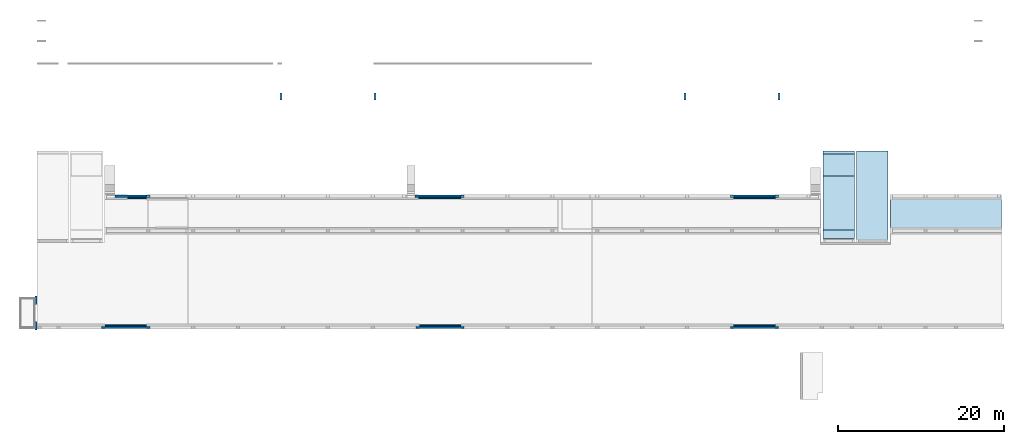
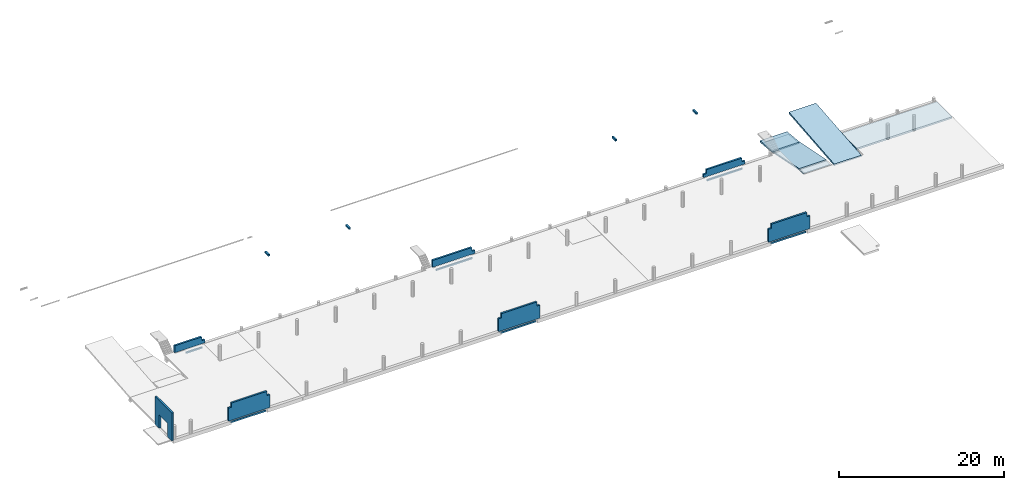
# One storey, part 4 of 6: 17 walls, 7 slabs, 13 openings.
"""IFC2X3 building model written with IfcOpenShell, lengths in millimetres."""

import ifcopenshell
import ifcopenshell.guid

model = None  # the IFC model being written
_history = None  # IfcOwnerHistory: only IFC2X3 demands one
_inside = {}  # id of a spatial element -> (the spatial element, [elements in it])
_under = {}  # id of a project, library or spatial element -> (it, [spatial elements below it])
_declared = {}  # id of a project -> (the project, [libraries it declares])
_typed = {}  # id of a type object -> (the type object, [elements of that type])
_made_of = {}  # id of a material, layer set ... -> (it, [elements and type objects made of it])


def new_model(schema):
    """Start an empty IFC model of exactly this schema.

    Asked for "IFC4X3", IfcOpenShell would pick the latest addendum, in which some entities
    have other attributes; the version numbers below select the first issue.
    IFC2X3 requires an IfcOwnerHistory on every rooted entity: one is made here for all.
    """
    global model, _history
    if schema == "IFC4X3":
        model = ifcopenshell.file(schema_version=(4, 3, 0, 0))
    else:
        model = ifcopenshell.file(schema=schema)
    _inside.clear()
    _under.clear()
    _declared.clear()
    _typed.clear()
    _made_of.clear()
    _history = None
    if model.schema == "IFC2X3":
        org = make("IfcOrganization", Name="unknown")
        user = make(
            "IfcPersonAndOrganization",
            ThePerson=make("IfcPerson", FamilyName="unknown"),
            TheOrganization=org,
        )
        app = make(
            "IfcApplication",
            ApplicationDeveloper=org,
            Version="unknown",
            ApplicationFullName="unknown",
            ApplicationIdentifier="unknown",
        )
        _history = make(
            "IfcOwnerHistory",
            OwningUser=user,
            OwningApplication=app,
            ChangeAction="ADDED",
            CreationDate=0,
        )
    return model


def make(cls, **values):
    """One entity of the class cls with the attributes given. An attribute that is None is left unset."""
    return model.create_entity(
        cls, **{name: value for name, value in values.items() if value is not None}
    )


def entity(cls, *values):
    """Any entity or typed value of the class cls, its attributes in the order of the schema. None: left unset."""
    e = model.create_entity(cls)
    for i, value in enumerate(values):
        if value is not None:
            e[i] = value
    return e


def rooted(cls, **values):
    """An entity with a GlobalId (a new one), such as an element, a storey or a relation."""
    return make(cls, GlobalId=ifcopenshell.guid.new(), OwnerHistory=_history, **values)


def si_unit(unit_type, name, prefix=None):
    """IfcSIUnit, for example si_unit("LENGTHUNIT", "METRE", prefix="MILLI")."""
    return make("IfcSIUnit", UnitType=unit_type, Prefix=prefix, Name=name)


def converted_unit(unit_type, name, factor, base, dimensions=None, offset=None):
    """IfcConversionBasedUnit, such as the inch: factor (a typed value) times the base unit."""
    return make(
        "IfcConversionBasedUnit"
        if offset is None
        else "IfcConversionBasedUnitWithOffset",
        ConversionOffset=offset,
        Dimensions=None
        if dimensions is None
        else entity("IfcDimensionalExponents", *dimensions),
        UnitType=unit_type,
        Name=name,
        ConversionFactor=make(
            "IfcMeasureWithUnit", ValueComponent=factor, UnitComponent=base
        ),
    )


def derived_unit(unit_type, elements):
    """IfcDerivedUnit: a product of units, each with its exponent."""
    return make(
        "IfcDerivedUnit",
        Elements=[
            make("IfcDerivedUnitElement", Unit=unit, Exponent=power)
            for unit, power in elements
        ],
        UnitType=unit_type,
    )


def assignment(units):
    """IfcUnitAssignment: the units of a project."""
    return None if units is None else make("IfcUnitAssignment", Units=units)


def point(xyz):
    """IfcCartesianPoint."""
    return None if xyz is None else make("IfcCartesianPoint", Coordinates=xyz)


def direction(xyz):
    """IfcDirection."""
    return None if xyz is None else make("IfcDirection", DirectionRatios=xyz)


def frame(location, z_axis=None, x_axis=None):
    """IfcAxis2Placement3D, a coordinate frame: its origin and axes. An axis left out is left unset."""
    return make(
        "IfcAxis2Placement3D",
        Location=point(location),
        Axis=direction(z_axis),
        RefDirection=direction(x_axis),
    )


def frame_2d(location, x_axis=None):
    """IfcAxis2Placement2D, a coordinate frame in the plane: its origin and x axis."""
    return make(
        "IfcAxis2Placement2D", Location=point(location), RefDirection=direction(x_axis)
    )


def origin():
    """The frame at (0, 0, 0) with its axes left unset."""
    return frame((0.0, 0.0, 0.0))


def origin_2d_with_axis():
    """The frame at (0, 0) in the plane with the x axis (1, 0) written out."""
    return frame_2d((0.0, 0.0), x_axis=(1.0, 0.0))


def place(relative_to, where):
    """IfcLocalPlacement: puts the frame where relative to a parent placement (None: the world)."""
    return make(
        "IfcLocalPlacement", PlacementRelTo=relative_to, RelativePlacement=where
    )


def context(
    kind, dimensions, precision=None, world=None, true_north=None, identifier=None
):
    """IfcGeometricRepresentationContext, for example the 3D "Model" context."""
    return make(
        "IfcGeometricRepresentationContext",
        ContextIdentifier=identifier,
        ContextType=kind,
        CoordinateSpaceDimension=dimensions,
        Precision=precision,
        WorldCoordinateSystem=world,
        TrueNorth=true_north,
    )


def subcontext(parent, identifier, kind, view, scale=None):
    """IfcGeometricRepresentationSubContext, for example "Body" below "Model"."""
    return make(
        "IfcGeometricRepresentationSubContext",
        ContextIdentifier=identifier,
        ContextType=kind,
        ParentContext=parent,
        TargetScale=scale,
        TargetView=view,
    )


def project(units=None, contexts=None):
    """IfcProject with its units and contexts."""
    return rooted(
        "IfcProject",
        Name="project",
        RepresentationContexts=contexts,
        UnitsInContext=assignment(units),
    )


def spatial(cls, under=None, at=None, **own):
    """A site, building, storey or space (cls), placed at a placement, below another one or the project."""
    s = rooted(cls, ObjectPlacement=at, **own)
    if under is not None:
        _under.setdefault(under.id(), (under, []))[1].append(s)
    return s


def profile(cls, at=None, kind="AREA", **sizes):
    """A parametric profile (cls). Its sizes go by their IFC names, for example OverallWidth=200.0."""
    return make(cls, ProfileType=kind, Position=at, **sizes)


def rectangle(**sizes):
    """IfcRectangleProfileDef."""
    return profile("IfcRectangleProfileDef", **sizes)


def extrude(swept, where, along, depth):
    """IfcExtrudedAreaSolid: the profile swept, set in the frame where, extruded along a direction by depth."""
    return make(
        "IfcExtrudedAreaSolid",
        SweptArea=swept,
        Position=where,
        ExtrudedDirection=direction(along),
        Depth=depth,
    )


def clip(a, b, op="DIFFERENCE"):
    """IfcBooleanClippingResult: the solid a cut by the half space b."""
    return make(
        "IfcBooleanClippingResult", Operator=op, FirstOperand=a, SecondOperand=b
    )


def halfspace(plane, agree):
    """IfcHalfSpaceSolid: all space on one side of the plane z = 0 of the frame plane."""
    return make(
        "IfcHalfSpaceSolid",
        BaseSurface=make("IfcPlane", Position=plane),
        AgreementFlag=agree,
    )


def faces_of(points, faces, orient=None, outer=None):
    """IfcFace entities. A face is a list of loops; a loop is a list of indices into points, from 0.

    orient and outer hold one flag for each loop. By default every Orientation is true, the
    first loop of a face is its IfcFaceOuterBound and the others are IfcFaceBound.
    """
    made = []
    for i, loops in enumerate(faces):
        bounds = []
        for j, loop in enumerate(loops):
            is_outer = j == 0 if outer is None else outer[i][j]
            bounds.append(
                make(
                    "IfcFaceOuterBound" if is_outer else "IfcFaceBound",
                    Bound=make("IfcPolyLoop", Polygon=[points[k] for k in loop]),
                    Orientation=True if orient is None else orient[i][j],
                )
            )
        made.append(make("IfcFace", Bounds=bounds))
    return made


def faceted_brep(points, faces, orient=None, outer=None, voids=None):
    """IfcFacetedBrep: a solid bounded by flat faces; with voids (closed shells), ...WithVoids."""
    shared = [point(p) for p in points]
    hull = make("IfcClosedShell", CfsFaces=faces_of(shared, faces, orient, outer))
    if voids is None:
        return make("IfcFacetedBrep", Outer=hull)
    return make(
        "IfcFacetedBrepWithVoids",
        Outer=hull,
        Voids=[
            make(cls, CfsFaces=faces_of(shared, fs, o, b)) for cls, fs, o, b in voids
        ],
    )


def shape(context_of_items, identifier, shape_type, items):
    """IfcShapeRepresentation: the items that make up one representation, for example the "Body"."""
    return make(
        "IfcShapeRepresentation",
        ContextOfItems=context_of_items,
        RepresentationIdentifier=identifier,
        RepresentationType=shape_type,
        Items=items,
    )


def material(Name=None, Category=None):
    """IfcMaterial."""
    return make("IfcMaterial", Name=Name, Category=Category)


def layer(
    of_material, thickness, ventilated=None, Name=None, Category=None, Priority=None
):
    """IfcMaterialLayer: one layer of a wall or slab, of a material (None: an air gap)."""
    return make(
        "IfcMaterialLayer",
        Material=of_material,
        LayerThickness=thickness,
        IsVentilated=ventilated,
        Name=Name,
        Category=Category,
        Priority=Priority,
    )


def layer_set(layers, Name=None):
    """IfcMaterialLayerSet."""
    return make("IfcMaterialLayerSet", MaterialLayers=layers, LayerSetName=Name)


def layer_usage(for_layer_set, set_direction, sense, offset, extent=None):
    """IfcMaterialLayerSetUsage: how a layer set lies in its element."""
    return make(
        "IfcMaterialLayerSetUsage",
        ForLayerSet=for_layer_set,
        LayerSetDirection=set_direction,
        DirectionSense=sense,
        OffsetFromReferenceLine=offset,
        ReferenceExtent=extent,
    )


def made_of(thing, what):
    """Note that an element or type object is made of a material, layer set ...; save() writes the relation."""
    if what is not None:
        _made_of.setdefault(what.id(), (what, []))[1].append(thing)
    return thing


def type_object(cls, material=None, **own):
    """A type object (cls), such as IfcWallType, which elements share."""
    return made_of(rooted(cls, **own), material)


def element(
    cls,
    number,
    at=None,
    inside=None,
    cuts=None,
    type_object=None,
    material=None,
    context=None,
    identifier="Body",
    shape_type=None,
    held_by="IfcProductDefinitionShape",
    body=None,
    shapes=None,
    **own,
):
    """One element of the class cls, such as IfcWall. Its Tag is "e" and its number.

    at: its placement. inside: the storey or other place that contains it. cuts: it is an
    opening in that element (IfcRelVoidsElement). A single representation is given by context,
    identifier, shape_type and body (its items); several are given by shapes. held_by: the class
    of the entity that holds the representations. save() writes the other relations.
    """
    e = rooted(cls, Tag="e%d" % number, ObjectPlacement=at, **own)
    if body is not None:
        shapes = [shape(context, identifier, shape_type, body)]
    if shapes is not None:
        e.Representation = make(held_by, Representations=shapes)
    if inside is not None:
        _inside.setdefault(inside.id(), (inside, []))[1].append(e)
    if cuts is not None:
        rooted(
            "IfcRelVoidsElement", RelatingBuildingElement=cuts, RelatedOpeningElement=e
        )
    if type_object is not None:
        _typed.setdefault(type_object.id(), (type_object, []))[1].append(e)
    return made_of(e, material)


def aggregate(whole, parts):
    """IfcRelAggregates: a whole, such as a stair, and the parts it consists of."""
    return rooted("IfcRelAggregates", RelatingObject=whole, RelatedObjects=parts)


def save(model, path):
    """Write the relations noted so far, then the file.

    IfcRelAggregates (storeys below a building ...), IfcRelContainedInSpatialStructure (elements
    in a storey), IfcRelDefinesByType, IfcRelAssociatesMaterial and IfcRelDeclares: one each for
    every whole, place, type object, material and project.
    """
    for whole, parts in _under.values():
        aggregate(whole, parts)
    for where, things in _inside.values():
        rooted(
            "IfcRelContainedInSpatialStructure",
            RelatedElements=things,
            RelatingStructure=where,
        )
    for kind, things in _typed.values():
        rooted("IfcRelDefinesByType", RelatedObjects=things, RelatingType=kind)
    for what, things in _made_of.values():
        rooted("IfcRelAssociatesMaterial", RelatedObjects=things, RelatingMaterial=what)
    for by, libraries in _declared.values():
        rooted("IfcRelDeclares", RelatingContext=by, RelatedDefinitions=libraries)
    model.write(path)


model = new_model("IFC2X3")

# Units and contexts
model_context = context("Model", 3, precision=0.01, world=origin(), true_north=direction((6.12303176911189e-17, 1.0)))
body_context = subcontext(model_context, "Body", "Model", "MODEL_VIEW")
ifc_project = project(units=[si_unit("LENGTHUNIT", "METRE", prefix="MILLI"), si_unit("AREAUNIT", "SQUARE_METRE"), si_unit("VOLUMEUNIT", "CUBIC_METRE"), converted_unit("PLANEANGLEUNIT", "DEGREE", entity("IfcRatioMeasure", 0.0174532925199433), si_unit("PLANEANGLEUNIT", "RADIAN"), dimensions=[0, 0, 0, 0, 0, 0, 0]), si_unit("MASSUNIT", "GRAM", prefix="KILO"), derived_unit("MASSDENSITYUNIT", [(si_unit("MASSUNIT", "GRAM", prefix="KILO"), 1), (si_unit("LENGTHUNIT", "METRE"), -3)]), si_unit("TIMEUNIT", "SECOND"), si_unit("FREQUENCYUNIT", "HERTZ"), si_unit("THERMODYNAMICTEMPERATUREUNIT", "DEGREE_CELSIUS"), derived_unit("THERMALTRANSMITTANCEUNIT", [(si_unit("MASSUNIT", "GRAM", prefix="KILO"), 1), (si_unit("THERMODYNAMICTEMPERATUREUNIT", "KELVIN"), -1), (si_unit("TIMEUNIT", "SECOND"), -3)]), derived_unit("VOLUMETRICFLOWRATEUNIT", [(si_unit("LENGTHUNIT", "METRE"), 3), (si_unit("TIMEUNIT", "SECOND"), -1)]), si_unit("ELECTRICCURRENTUNIT", "AMPERE"), si_unit("ELECTRICVOLTAGEUNIT", "VOLT"), si_unit("POWERUNIT", "WATT"), si_unit("FORCEUNIT", "NEWTON", prefix="KILO"), si_unit("ILLUMINANCEUNIT", "LUX"), si_unit("LUMINOUSFLUXUNIT", "LUMEN"), si_unit("LUMINOUSINTENSITYUNIT", "CANDELA"), derived_unit("USERDEFINED", [(si_unit("MASSUNIT", "GRAM", prefix="KILO"), -1), (si_unit("LENGTHUNIT", "METRE"), -2), (si_unit("TIMEUNIT", "SECOND"), 3), (si_unit("LUMINOUSFLUXUNIT", "LUMEN"), 1)]), derived_unit("LINEARVELOCITYUNIT", [(si_unit("LENGTHUNIT", "METRE"), 1), (si_unit("TIMEUNIT", "SECOND"), -1)]), si_unit("PRESSUREUNIT", "PASCAL"), derived_unit("USERDEFINED", [(si_unit("LENGTHUNIT", "METRE"), -2), (si_unit("MASSUNIT", "GRAM", prefix="KILO"), 1), (si_unit("TIMEUNIT", "SECOND"), -2)])], contexts=[model_context])

# Site, building, storey
site_placement = place(None, origin())
site = spatial("IfcSite", under=ifc_project, at=site_placement, Name="Default", CompositionType="ELEMENT")
building_placement = place(site_placement, origin())
building = spatial("IfcBuilding", under=site, at=building_placement, Name="niet gebruiken", CompositionType="ELEMENT")
storey_placement = place(building_placement, frame((0.0, 0.0, 8370.0)))
storey = spatial("IfcBuildingStorey", under=building, at=storey_placement, Name="02a eerste tussenverdieping", CompositionType="ELEMENT", Elevation=8369.99999999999)

# Slabs
ifc_material_1 = material(Name="NLRS_f2_beton prefab")
ifc_layer_1 = layer(ifc_material_1, 255.0)
ifc_layer_set_1 = layer_set([ifc_layer_1], Name="Floor:NLRS_23.21_FL_kanaalplaat d=255_gen")
ifc_layer_usage_1 = layer_usage(ifc_layer_set_1, "AXIS3", "POSITIVE", 0.0)
slab_1_placement = place(storey_placement, origin())
element("IfcSlab", 1, at=slab_1_placement, inside=storey, material=ifc_layer_usage_1, Name="Floor:NLRS_23.21_FL_kanaalplaat d=255_gen", ObjectType="Floor:NLRS_23.21_FL_kanaalplaat d=255_gen", PredefinedType="FLOOR", context=body_context, shape_type="SweptSolid", body=[
    extrude(rectangle(XDim=3689.99999999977, YDim=13355.0000000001, at=origin_2d_with_axis()), frame((117522.499999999, 22911.0, -70.0), z_axis=(0.0, 0.0, -1.0), x_axis=(0.0, 1.0, 0.0)), (0.0, 0.0, 1.0), 255.000000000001),
])
ifc_material_2 = material(Name="NLRS_f2_beton ihwg")
ifc_layer_2 = layer(ifc_material_2, 250.0)
ifc_layer_set_2 = layer_set([ifc_layer_2], Name="Floor:NLRS_23.21_FL_breedplaat d=70/250_opgeruwd_schil apart_gen")
ifc_layer_usage_2 = layer_usage(ifc_layer_set_2, "AXIS3", "POSITIVE", 0.0)
slab_2_placement = place(storey_placement, origin())
element("IfcSlab", 2, at=slab_2_placement, inside=storey, material=ifc_layer_usage_2, Name="Floor:NLRS_23.21_FL_breedplaat d=70/250_opgeruwd_schil apart_gen", ObjectType="Floor:NLRS_23.21_FL_breedplaat d=70/250_opgeruwd_schil apart_gen", PredefinedType="FLOOR", context=body_context, shape_type="Clipping", body=[
    clip(clip(extrude(rectangle(XDim=6630.69377968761, YDim=3800.0, at=frame_2d((2.27373675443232e-13, 0.0), x_axis=(1.0, 0.0))), frame((104625.0, 24176.0, -805.0), z_axis=(0.0, -0.197566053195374, -0.980289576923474), x_axis=(0.0, 0.980289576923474, -0.197566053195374)), (0.197566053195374, 0.0, 0.980289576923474), 187.31119526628), halfspace(frame((104625.0, 27426.0, -1643.61921236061), z_axis=(0.0, -0.197566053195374, -0.980289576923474), x_axis=(0.0, 0.980289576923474, -0.197566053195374)), False)), halfspace(frame((104625.0, 27426.0, -1460.0), z_axis=(0.0, 0.197566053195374, 0.980289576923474), x_axis=(0.0, 0.980289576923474, -0.197566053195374)), False)),
])

# Slab, opening
ifc_layer_usage_3 = layer_usage(ifc_layer_set_2, "AXIS3", "POSITIVE", 0.0)
slab_3_placement = place(storey_placement, frame((102725.0, 27426.0, -2011.24689052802)))
slab_3 = element("IfcSlab", 3, at=slab_3_placement, inside=storey, material=ifc_layer_usage_3, Name="Floor:NLRS_23.21_FL_breedplaat d=70/250_opgeruwd_schil apart_gen", ObjectType="Floor:NLRS_23.21_FL_breedplaat d=70/250_opgeruwd_schil apart_gen", PredefinedType="FLOOR", context=body_context, shape_type="SweptSolid", body=[
    extrude(rectangle(XDim=3014.96268633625, YDim=3799.99999999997, at=frame_2d((0.0, -1507.48134316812), x_axis=(0.0, -1.0))), frame((1900.0, 3000.0, 251.246890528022), z_axis=(0.0, 0.0995037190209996, 0.995037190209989), x_axis=(1.0, 0.0, 0.0)), (0.0, 0.0995037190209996, -0.995037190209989), 251.246890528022),
])
opening_1_placement = place(slab_3_placement, origin())
element("IfcOpeningElement", 4, at=opening_1_placement, cuts=slab_3, ObjectType="Opening", context=body_context, shape_type="SweptSolid", body=[
    extrude(rectangle(XDim=380.0, YDim=3759.99999999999, at=origin_2d_with_axis()), frame((1900.0, 2810.0, -213.753109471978), z_axis=(0.0, 0.0, 1.0), x_axis=(0.0, 1.0, 0.0)), (0.0, 0.0, 1.0), 250.000000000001),
])

# Slabs
ifc_layer_3 = layer(ifc_material_1, 70.0)
ifc_layer_set_3 = layer_set([ifc_layer_3], Name="Floor:NLRS_23.21_FL_breedplaatschil d=70_gen")
ifc_layer_usage_4 = layer_usage(ifc_layer_set_3, "AXIS3", "POSITIVE", 0.0)
slab_4_placement = place(storey_placement, origin())
element("IfcSlab", 5, at=slab_4_placement, inside=storey, material=ifc_layer_usage_4, Name="Floor:NLRS_23.21_FL_breedplaatschil d=70_gen", ObjectType="Floor:NLRS_23.21_FL_breedplaatschil d=70_gen", PredefinedType="FLOOR", context=body_context, shape_type="Clipping", body=[
    clip(clip(extrude(rectangle(XDim=1045.18706459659, YDim=3799.99999999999, at=frame_2d((0.0, -8.64019966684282e-12), x_axis=(1.0, 0.0))), frame((104625.0, 20406.0, -278.955823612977), z_axis=(0.0, -0.0995037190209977, -0.995037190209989), x_axis=(0.0, 0.995037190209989, -0.0995037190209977)), (0.0995037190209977, 0.0, 0.995037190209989), 70.7000000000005), halfspace(frame((104625.0, 20926.0, -330.955823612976), z_axis=(0.0, 0.0995037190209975, 0.995037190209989), x_axis=(0.0, 0.995037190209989, -0.0995037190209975)), False)), halfspace(frame((104625.0, 20926.0, -401.304952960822), z_axis=(0.0, -0.0995037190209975, -0.995037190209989), x_axis=(0.0, -0.995037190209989, 0.0995037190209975)), False)),
])
ifc_layer_usage_5 = layer_usage(ifc_layer_set_3, "AXIS3", "POSITIVE", 0.0)
slab_5_placement = place(storey_placement, origin())
element("IfcSlab", 6, at=slab_5_placement, inside=storey, material=ifc_layer_usage_5, Name="Floor:NLRS_23.21_FL_breedplaatschil d=70_gen", ObjectType="Floor:NLRS_23.21_FL_breedplaatschil d=70_gen", PredefinedType="FLOOR", context=body_context, shape_type="Clipping", body=[
    clip(clip(extrude(rectangle(XDim=6630.69377968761, YDim=3760.00000000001, at=origin_2d_with_axis()), frame((104625.0, 24176.0, -988.61921236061), z_axis=(0.0, -0.197566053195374, -0.980289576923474), x_axis=(0.0, 0.980289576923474, -0.197566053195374)), (0.197566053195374, 0.0, 0.980289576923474), 72.8432426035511), halfspace(frame((104625.0, 27426.0, -1715.02668383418), z_axis=(0.0, -0.197566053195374, -0.980289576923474), x_axis=(0.0, -0.980289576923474, 0.197566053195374)), False)), halfspace(frame((104625.0, 27426.0, -1643.61921236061), z_axis=(0.0, 0.197566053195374, 0.980289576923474), x_axis=(0.0, 0.980289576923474, -0.197566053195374)), False)),
])
ifc_layer_usage_6 = layer_usage(ifc_layer_set_3, "AXIS3", "POSITIVE", 0.0)
slab_6_placement = place(storey_placement, origin())
element("IfcSlab", 7, at=slab_6_placement, inside=storey, material=ifc_layer_usage_6, Name="Floor:NLRS_23.21_FL_breedplaatschil d=70_gen", ObjectType="Floor:NLRS_23.21_FL_breedplaatschil d=70_gen", PredefinedType="FLOOR", context=body_context, shape_type="Clipping", body=[
    clip(clip(extrude(rectangle(XDim=2653.1671639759, YDim=3759.99999999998, at=origin_2d_with_axis()), frame((104625.0, 28746.0, -1772.89776118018), z_axis=(0.0, -0.0995037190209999, -0.995037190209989), x_axis=(0.0, 0.995037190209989, -0.0995037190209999)), (0.0995037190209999, 0.0, 0.995037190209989), 70.7000000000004), halfspace(frame((104625.0, 30426.0, -2011.24689052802), z_axis=(0.0, -0.0995037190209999, -0.995037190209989), x_axis=(0.0, -0.995037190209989, 0.0995037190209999)), False)), halfspace(frame((104625.0, 30426.0, -1940.89776118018), z_axis=(0.0, 0.0995037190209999, 0.995037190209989), x_axis=(0.0, 0.995037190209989, -0.0995037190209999)), False)),
])

# Slab, opening
ifc_layer_usage_7 = layer_usage(ifc_layer_set_2, "AXIS3", "POSITIVE", 0.0)
slab_7_placement = place(storey_placement, frame((106775.0, 19426.0, -251.06203611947)))
slab_7 = element("IfcSlab", 8, at=slab_7_placement, inside=storey, material=ifc_layer_usage_7, Name="Floor:NLRS_23.21_FL_breedplaat d=70/250_opgeruwd_schil apart_gen", ObjectType="Floor:NLRS_23.21_FL_breedplaat d=70/250_opgeruwd_schil apart_gen", PredefinedType="FLOOR", context=body_context, shape_type="SweptSolid", body=[
    extrude(rectangle(XDim=11049.0542581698, YDim=3799.99999999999, at=frame_2d((0.0, 5525.08843574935), x_axis=(0.0, -1.0))), frame((1900.0, -0.558814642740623, 251.062036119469), z_axis=(0.0, -0.094125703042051, 0.995560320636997), x_axis=(1.0, 0.0, 0.0)), (0.0, -0.094125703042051, -0.995560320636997), 251.11486950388),
])
opening_2_placement = place(slab_7_placement, origin())
element("IfcOpeningElement", 9, at=opening_2_placement, cuts=slab_7, ObjectType="Opening", context=body_context, shape_type="SweptSolid", body=[
    extrude(rectangle(XDim=380.0, YDim=3759.99999999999, at=origin_2d_with_axis()), frame((1900.0, 190.0, -213.937963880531), z_axis=(0.0, 0.0, 1.0), x_axis=(0.0, 1.0, 0.0)), (0.0, 0.0, 1.0), 250.000000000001),
])

# Wall, opening
ifc_layer_4 = layer(ifc_material_1, 250.0)
ifc_layer_set_4 = layer_set([ifc_layer_4], Name="Basic Wall:NLRS_22.21_WA_beton prefab d=250_gen")
ifc_layer_usage_8 = layer_usage(ifc_layer_set_4, "AXIS2", "NEGATIVE", 125.0)
wall_type_1 = type_object("IfcWallType", Name="Basic Wall:NLRS_22.21_WA_beton prefab d=250_gen", PredefinedType="STANDARD", material=ifc_layer_set_4)
wall_1_placement = place(storey_placement, frame((8100.0, 12986.0, 20.0), z_axis=(0.0, 0.0, 1.0), x_axis=(0.0, -1.0, 0.0)))
wall_1 = element("IfcWallStandardCase", 10, at=wall_1_placement, inside=storey, type_object=wall_type_1, material=ifc_layer_usage_8, Name="Basic Wall:NLRS_22.21_WA_beton prefab d=250_gen", ObjectType="Basic Wall:NLRS_22.21_WA_beton prefab d=250_gen", context=body_context, shape_type="SweptSolid", body=[
    extrude(rectangle(XDim=4100.0, YDim=249.999999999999, at=frame_2d((2050.0, 0.0), x_axis=(-1.0, 0.0))), origin(), (0.0, 0.0, 1.0), 4120.00000000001),
])
opening_3_placement = place(wall_1_placement, origin())
element("IfcOpeningElement", 11, at=opening_3_placement, cuts=wall_1, Name="Basic Wall:NLRS_22.21_WA_beton prefab d=250_gen", ObjectType="Opening", context=body_context, shape_type="SweptSolid", body=[
    extrude(rectangle(XDim=1990.0, YDim=2050.0, at=frame_2d((5.6843418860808e-13, -1.13686837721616e-12), x_axis=(1.0, 0.0))), frame((2050.0, -1649.0, 975.0), z_axis=(0.0, 1.0, 0.0), x_axis=(0.0, 0.0, 1.0)), (0.0, 0.0, 1.0), 3048.0),
])

ifc_layer_5 = layer(ifc_material_1, 250.0)
ifc_layer_set_5 = layer_set([ifc_layer_5], Name="Basic Wall:NLRS_16.21_WA_beton prefab d=250_gen")
ifc_layer_usage_9 = layer_usage(ifc_layer_set_5, "AXIS2", "NEGATIVE", 125.0)
wall_type_2 = type_object("IfcWallType", Name="Basic Wall:NLRS_16.21_WA_beton prefab d=250_gen", PredefinedType="STANDARD", material=ifc_layer_set_5)
wall_2_placement = place(storey_placement, frame((17595.0, 24976.0, 30.0)))
wall_2 = element("IfcWallStandardCase", 12, at=wall_2_placement, inside=storey, type_object=wall_type_2, material=ifc_layer_usage_9, Name="Basic Wall:NLRS_16.21_WA_beton prefab d=250_gen", ObjectType="Basic Wall:NLRS_16.21_WA_beton prefab d=250_gen", context=body_context, shape_type="SweptSolid", body=[
    extrude(rectangle(XDim=4205.00000000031, YDim=250.000000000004, at=frame_2d((2102.50000000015, -5.40012479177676e-13), x_axis=(-1.0, 0.0))), origin(), (0.0, 0.0, 1.0), 1020.0),
])
opening_4_placement = place(wall_2_placement, origin())
element("IfcOpeningElement", 13, at=opening_4_placement, cuts=wall_2, Name="Basic Wall:NLRS_16.21_WA_beton prefab d=250_gen", ObjectType="Opening", context=body_context, shape_type="SweptSolid", body=[
    extrude(rectangle(XDim=559.999999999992, YDim=420.0, at=origin_2d_with_axis()), frame((3995.0, 125.0, 740.0), z_axis=(0.0, -1.0, 0.0), x_axis=(0.0, 0.0, 1.0)), (0.0, 0.0, 1.0), 250.0),
])

# Wall, openings
ifc_layer_usage_10 = layer_usage(ifc_layer_set_5, "AXIS2", "NEGATIVE", 125.0)
wall_3_placement = place(storey_placement, frame((16000.0, 9196.0, 30.0)))
wall_3 = element("IfcWallStandardCase", 14, at=wall_3_placement, inside=storey, type_object=wall_type_2, material=ifc_layer_usage_10, Name="Basic Wall:NLRS_16.21_WA_beton prefab d=250_gen", ObjectType="Basic Wall:NLRS_16.21_WA_beton prefab d=250_gen", context=body_context, shape_type="SweptSolid", body=[
    extrude(rectangle(XDim=5799.99999999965, YDim=249.999999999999, at=frame_2d((2899.99999999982, -1.13686837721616e-13), x_axis=(-1.0, 0.0))), origin(), (0.0, 0.0, 1.0), 2530.00000000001),
])
opening_5_placement = place(wall_3_placement, origin())
element("IfcOpeningElement", 15, at=opening_5_placement, cuts=wall_3, Name="Basic Wall:NLRS_16.21_WA_beton prefab d=250_gen", ObjectType="Opening", context=body_context, shape_type="SweptSolid", body=[
    extrude(rectangle(XDim=620.000000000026, YDim=419.999999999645, at=frame_2d((1.08002495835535e-12, 0.0), x_axis=(1.0, 0.0))), frame((5590.0, 125.0, 2220.0), z_axis=(0.0, -1.0, 0.0), x_axis=(0.0, 0.0, 1.0)), (0.0, 0.0, 1.0), 250.0),
])
opening_6_placement = place(wall_3_placement, origin())
element("IfcOpeningElement", 16, at=opening_6_placement, cuts=wall_3, Name="Basic Wall:NLRS_16.21_WA_beton prefab d=250_gen", ObjectType="Opening", context=body_context, shape_type="SweptSolid", body=[
    extrude(rectangle(XDim=620.000000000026, YDim=420.000000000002, at=frame_2d((1.08002495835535e-12, -1.08002495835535e-12), x_axis=(0.0, 1.0))), frame((210.0, 125.0, 2220.0), z_axis=(0.0, -1.0, 0.0), x_axis=(-1.0, 0.0, 0.0)), (0.0, 0.0, 1.0), 250.0),
])

# Wall, opening
ifc_layer_usage_11 = layer_usage(ifc_layer_set_5, "AXIS2", "NEGATIVE", 125.0)
wall_4_placement = place(storey_placement, frame((53690.0, 24976.0, 30.0)))
wall_4 = element("IfcWallStandardCase", 17, at=wall_4_placement, inside=storey, type_object=wall_type_2, material=ifc_layer_usage_11, Name="Basic Wall:NLRS_16.21_WA_beton prefab d=250_gen", ObjectType="Basic Wall:NLRS_16.21_WA_beton prefab d=250_gen", context=body_context, shape_type="SweptSolid", body=[
    extrude(rectangle(XDim=5909.99999999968, YDim=250.000000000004, at=frame_2d((2954.99999999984, 2.1316282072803e-14), x_axis=(-1.0, 0.0))), origin(), (0.0, 0.0, 1.0), 1019.99999999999),
])
opening_7_placement = place(wall_4_placement, origin())
element("IfcOpeningElement", 18, at=opening_7_placement, cuts=wall_4, Name="Basic Wall:NLRS_16.21_WA_beton prefab d=250_gen", ObjectType="Opening", context=body_context, shape_type="SweptSolid", body=[
    extrude(rectangle(XDim=559.999999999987, YDim=420.000000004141, at=frame_2d((0.0, 4.33431068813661e-12), x_axis=(1.0, 0.0))), frame((5700.0, 125.0, 740.0), z_axis=(0.0, -1.0, 0.0), x_axis=(0.0, 0.0, 1.0)), (0.0, 0.0, 1.0), 250.0),
])

# Wall, openings
ifc_layer_usage_12 = layer_usage(ifc_layer_set_5, "AXIS2", "NEGATIVE", 125.0)
wall_5_placement = place(storey_placement, frame((91600.0, 24976.0, 30.0)))
wall_5 = element("IfcWallStandardCase", 19, at=wall_5_placement, inside=storey, type_object=wall_type_2, material=ifc_layer_usage_12, Name="Basic Wall:NLRS_16.21_WA_beton prefab d=250_gen", ObjectType="Basic Wall:NLRS_16.21_WA_beton prefab d=250_gen", context=body_context, shape_type="SweptSolid", body=[
    extrude(rectangle(XDim=5799.99999999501, YDim=250.000000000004, at=frame_2d((2899.9999999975, 0.0), x_axis=(-1.0, 0.0))), origin(), (0.0, 0.0, 1.0), 1019.99999999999),
])
opening_8_placement = place(wall_5_placement, origin())
element("IfcOpeningElement", 20, at=opening_8_placement, cuts=wall_5, Name="Basic Wall:NLRS_16.21_WA_beton prefab d=250_gen", ObjectType="Opening", context=body_context, shape_type="SweptSolid", body=[
    extrude(rectangle(XDim=559.999999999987, YDim=420.000000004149, at=frame_2d((0.0, 8.66862137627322e-12), x_axis=(1.0, 0.0))), frame((5590.0, 125.0, 740.0), z_axis=(0.0, -1.0, 0.0), x_axis=(0.0, 0.0, 1.0)), (0.0, 0.0, 1.0), 250.0),
])
opening_9_placement = place(wall_5_placement, origin())
element("IfcOpeningElement", 21, at=opening_9_placement, cuts=wall_5, Name="Basic Wall:NLRS_16.21_WA_beton prefab d=250_gen", ObjectType="Opening", context=body_context, shape_type="SweptSolid", body=[
    extrude(rectangle(XDim=559.999999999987, YDim=419.999999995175, at=frame_2d((8.66862137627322e-12, 0.0), x_axis=(0.0, 1.0))), frame((210.0, 125.0, 740.0), z_axis=(0.0, -1.0, 0.0), x_axis=(-1.0, 0.0, 0.0)), (0.0, 0.0, 1.0), 250.0),
])

ifc_layer_usage_13 = layer_usage(ifc_layer_set_5, "AXIS2", "NEGATIVE", 125.0)
wall_6_placement = place(storey_placement, frame((91600.0, 9196.0, 30.0)))
wall_6 = element("IfcWallStandardCase", 22, at=wall_6_placement, inside=storey, type_object=wall_type_2, material=ifc_layer_usage_13, Name="Basic Wall:NLRS_16.21_WA_beton prefab d=250_gen", ObjectType="Basic Wall:NLRS_16.21_WA_beton prefab d=250_gen", context=body_context, shape_type="SweptSolid", body=[
    extrude(rectangle(XDim=5799.99999999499, YDim=249.999999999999, at=frame_2d((2899.9999999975, 0.0), x_axis=(-1.0, 0.0))), origin(), (0.0, 0.0, 1.0), 2530.00000000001),
])
opening_10_placement = place(wall_6_placement, origin())
element("IfcOpeningElement", 23, at=opening_10_placement, cuts=wall_6, Name="Basic Wall:NLRS_16.21_WA_beton prefab d=250_gen", ObjectType="Opening", context=body_context, shape_type="SweptSolid", body=[
    extrude(rectangle(XDim=620.000000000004, YDim=419.99999999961, at=frame_2d((-1.08002495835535e-12, 8.65441052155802e-12), x_axis=(1.0, 0.0))), frame((5590.0, 125.0, 2220.0), z_axis=(0.0, -1.0, 0.0), x_axis=(0.0, 0.0, 1.0)), (0.0, 0.0, 1.0), 250.0),
])
opening_11_placement = place(wall_6_placement, origin())
element("IfcOpeningElement", 24, at=opening_11_placement, cuts=wall_6, Name="Basic Wall:NLRS_16.21_WA_beton prefab d=250_gen", ObjectType="Opening", context=body_context, shape_type="SweptSolid", body=[
    extrude(rectangle(XDim=620.000000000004, YDim=419.999999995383, at=frame_2d((-8.65441052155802e-12, 1.08002495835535e-12), x_axis=(0.0, 1.0))), frame((210.0, 125.0, 2220.0), z_axis=(0.0, -1.0, 0.0), x_axis=(-1.0, 0.0, 0.0)), (0.0, 0.0, 1.0), 250.0),
])

ifc_layer_usage_14 = layer_usage(ifc_layer_set_5, "AXIS2", "NEGATIVE", 125.0)
wall_7_placement = place(storey_placement, frame((53800.0, 9196.0, 30.0)))
wall_7 = element("IfcWallStandardCase", 25, at=wall_7_placement, inside=storey, type_object=wall_type_2, material=ifc_layer_usage_14, Name="Basic Wall:NLRS_16.21_WA_beton prefab d=250_gen", ObjectType="Basic Wall:NLRS_16.21_WA_beton prefab d=250_gen", context=body_context, shape_type="SweptSolid", body=[
    extrude(rectangle(XDim=5799.99999999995, YDim=249.999999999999, at=frame_2d((2899.99999999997, 0.0), x_axis=(-1.0, 0.0))), origin(), (0.0, 0.0, 1.0), 2530.00000000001),
])
opening_12_placement = place(wall_7_placement, origin())
element("IfcOpeningElement", 26, at=opening_12_placement, cuts=wall_7, Name="Basic Wall:NLRS_16.21_WA_beton prefab d=250_gen", ObjectType="Opening", context=body_context, shape_type="SweptSolid", body=[
    extrude(rectangle(XDim=620.000000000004, YDim=419.999999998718, at=frame_2d((-1.08002495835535e-12, 4.33431068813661e-12), x_axis=(1.0, 0.0))), frame((5590.0, 125.0, 2220.0), z_axis=(0.0, -1.0, 0.0), x_axis=(0.0, 0.0, 1.0)), (0.0, 0.0, 1.0), 250.0),
])
opening_13_placement = place(wall_7_placement, origin())
element("IfcOpeningElement", 27, at=opening_13_placement, cuts=wall_7, Name="Basic Wall:NLRS_16.21_WA_beton prefab d=250_gen", ObjectType="Opening", context=body_context, shape_type="SweptSolid", body=[
    extrude(rectangle(XDim=620.000000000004, YDim=420.00000000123, at=frame_2d((4.33431068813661e-12, 1.08002495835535e-12), x_axis=(0.0, 1.0))), frame((210.0, 125.0, 2220.0), z_axis=(0.0, -1.0, 0.0), x_axis=(-1.0, 0.0, 0.0)), (0.0, 0.0, 1.0), 250.0),
])

# Walls
wall_type_3 = type_object("IfcWallType", Name="NLRS_21.21_SF_WPB_oplegnok prefabbeton_gen:200x250 afschuining", PredefinedType="NOTDEFINED", material=ifc_material_1)
wall_8_placement = place(storey_placement, frame((16420.0, 9321.0, -580.0)))
element("IfcWall", 28, at=wall_8_placement, inside=storey, type_object=wall_type_3, material=ifc_material_1, Name="NLRS_21.21_SF_WPB_oplegnok prefabbeton_gen:200x250 afschuining", ObjectType="NLRS_21.21_SF_WPB_oplegnok prefabbeton_gen:200x250 afschuining", context=body_context, shape_type="Brep", body=[
    faceted_brep([(4.8512447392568e-09, 0.0, 250.0), (4.8512447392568e-09, 200.0, 250.0), (4.8512447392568e-09, 200.0, 49.9768447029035), (4.8512447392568e-09, 0.0, 0.0), (4.8512447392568e-09, 0.0, 30.0), (4960.0, 0.0, 250.0), (4960.0, 0.0, 30.0), (4960.0, 0.0, 0.0), (4960.0, 200.0, 49.9768447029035), (4960.0, 200.0, 250.0)], [[[0, 1, 2, 3, 4]], [[5, 6, 7, 8, 9]], [[3, 7, 6, 5, 0, 4]], [[1, 9, 8, 2]], [[0, 5, 9, 1]], [[2, 8, 7, 3]]]),
])
wall_9_placement = place(storey_placement, frame((19120.0, 24651.0, -580.0)))
element("IfcWall", 29, at=wall_9_placement, inside=storey, type_object=wall_type_3, material=ifc_material_1, Name="NLRS_21.21_SF_WPB_oplegnok prefabbeton_gen:200x250 afschuining", ObjectType="NLRS_21.21_SF_WPB_oplegnok prefabbeton_gen:200x250 afschuining", context=body_context, shape_type="Brep", body=[
    faceted_brep([(0.0, 200.0, 250.0), (0.0, 200.0, 30.0), (0.0, 200.0, 0.0), (0.0, 0.0, 49.9768447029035), (0.0, 0.0, 250.0), (2260.0, 200.0, 250.0), (2260.0, 0.0, 250.0), (2260.0, 0.0, 49.9768447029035), (2260.0, 200.0, 0.0), (2260.0, 200.0, 30.0)], [[[0, 1, 2, 3, 4]], [[5, 6, 7, 8, 9]], [[2, 1, 0, 5, 9, 8]], [[4, 3, 7, 6]], [[0, 4, 6, 5]], [[3, 2, 8, 7]]]),
])
wall_10_placement = place(storey_placement, frame((92020.0, 24651.0, -580.0)))
element("IfcWall", 30, at=wall_10_placement, inside=storey, type_object=wall_type_3, material=ifc_material_1, Name="NLRS_21.21_SF_WPB_oplegnok prefabbeton_gen:200x250 afschuining", ObjectType="NLRS_21.21_SF_WPB_oplegnok prefabbeton_gen:200x250 afschuining", context=body_context, shape_type="Brep", body=[
    faceted_brep([(0.0, 200.0, 250.0), (0.0, 200.0, 30.0), (0.0, 200.0, 0.0), (0.0, 0.0, 49.9768447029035), (0.0, 0.0, 250.0), (4960.0, 200.0, 250.0), (4960.0, 0.0, 250.0), (4960.0, 0.0, 49.9768447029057), (4960.0, 200.0, 0.0), (4960.0, 200.0, 30.0)], [[[0, 1, 2, 3, 4]], [[5, 6, 7, 8, 9]], [[2, 1, 0, 5, 9, 8]], [[4, 3, 7, 6]], [[0, 4, 6, 5]], [[3, 2, 8, 7]]]),
])
wall_11_placement = place(storey_placement, frame((92020.0, 9321.0, -580.0)))
element("IfcWall", 31, at=wall_11_placement, inside=storey, type_object=wall_type_3, material=ifc_material_1, Name="NLRS_21.21_SF_WPB_oplegnok prefabbeton_gen:200x250 afschuining", ObjectType="NLRS_21.21_SF_WPB_oplegnok prefabbeton_gen:200x250 afschuining", context=body_context, shape_type="Brep", body=[
    faceted_brep([(0.0, 0.0, 250.0), (0.0, 200.0, 250.0), (0.0, 200.0, 49.9768447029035), (0.0, 0.0, 0.0), (0.0, 0.0, 30.0), (4960.0, 0.0, 250.0), (4960.0, 0.0, 30.0), (4960.0, 0.0, 0.0), (4960.0, 200.0, 49.9768447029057), (4960.0, 200.0, 250.0)], [[[0, 1, 2, 3, 4]], [[5, 6, 7, 8, 9]], [[3, 7, 6, 5, 0, 4]], [[1, 9, 8, 2]], [[0, 5, 9, 1]], [[2, 8, 7, 3]]]),
])
wall_12_placement = place(storey_placement, frame((54120.0, 24651.0, -580.0)))
element("IfcWall", 32, at=wall_12_placement, inside=storey, type_object=wall_type_3, material=ifc_material_1, Name="NLRS_21.21_SF_WPB_oplegnok prefabbeton_gen:200x250 afschuining", ObjectType="NLRS_21.21_SF_WPB_oplegnok prefabbeton_gen:200x250 afschuining", context=body_context, shape_type="Brep", body=[
    faceted_brep([(0.0, 200.0, 250.0), (0.0, 200.0, 30.0), (0.0, 200.0, 0.0), (0.0, 0.0, 49.9768447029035), (0.0, 0.0, 250.0), (5060.0, 200.0, 250.0), (5060.0, 0.0, 250.0), (5060.0, 0.0, 49.9768447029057), (5060.0, 200.0, 0.0), (5060.0, 200.0, 30.0)], [[[0, 1, 2, 3, 4]], [[5, 6, 7, 8, 9]], [[2, 1, 0, 5, 9, 8]], [[4, 3, 7, 6]], [[0, 4, 6, 5]], [[3, 2, 8, 7]]]),
])
wall_13_placement = place(storey_placement, frame((54220.0, 9321.0, -580.0)))
element("IfcWall", 33, at=wall_13_placement, inside=storey, type_object=wall_type_3, material=ifc_material_1, Name="NLRS_21.21_SF_WPB_oplegnok prefabbeton_gen:200x250 afschuining", ObjectType="NLRS_21.21_SF_WPB_oplegnok prefabbeton_gen:200x250 afschuining", context=body_context, shape_type="Brep", body=[
    faceted_brep([(2.39963355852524e-09, 0.0, 250.0), (2.39963355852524e-09, 200.0, 250.0), (2.39963355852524e-09, 200.0, 49.9768447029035), (2.39963355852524e-09, 0.0, 0.0), (2.39963355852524e-09, 0.0, 30.0), (4960.0, 0.0, 250.0), (4960.0, 0.0, 30.0), (4960.0, 0.0, 0.0), (4960.0, 200.0, 49.9768447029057), (4960.0, 200.0, 250.0)], [[[0, 1, 2, 3, 4]], [[5, 6, 7, 8, 9]], [[3, 7, 6, 5, 0, 4]], [[1, 9, 8, 2]], [[0, 5, 9, 1]], [[2, 8, 7, 3]]]),
])
wall_type_4 = type_object("IfcWallType", Name="NLRS_21.21_SF_WPB_oplegnok ihwg beton_gen:250x250", PredefinedType="NOTDEFINED", material=ifc_material_2)
wall_14_placement = place(storey_placement, frame((48725.0, 36556.0, 240.0), z_axis=(0.0, 0.0, 1.0), x_axis=(0.0, 1.0, 0.0)))
element("IfcWall", 34, at=wall_14_placement, inside=storey, type_object=wall_type_4, material=ifc_material_2, Name="NLRS_21.21_SF_WPB_oplegnok ihwg beton_gen:250x250", ObjectType="NLRS_21.21_SF_WPB_oplegnok ihwg beton_gen:250x250", context=body_context, shape_type="SweptSolid", body=[
    extrude(rectangle(XDim=850.000000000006, YDim=250.000000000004, at=origin_2d_with_axis()), frame((425.0, -125.0, 0.0)), (0.0, 0.0, 1.0), 250.000000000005),
])
wall_15_placement = place(storey_placement, frame((97325.0, 36556.0, 240.0), z_axis=(0.0, 0.0, 1.0), x_axis=(0.0, 1.0, 0.0)))
element("IfcWall", 35, at=wall_15_placement, inside=storey, type_object=wall_type_4, material=ifc_material_2, Name="NLRS_21.21_SF_WPB_oplegnok ihwg beton_gen:250x250", ObjectType="NLRS_21.21_SF_WPB_oplegnok ihwg beton_gen:250x250", context=body_context, shape_type="SweptSolid", body=[
    extrude(rectangle(XDim=850.000000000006, YDim=249.999999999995, at=frame_2d((0.0, -8.66151594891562e-12), x_axis=(1.0, 0.0))), frame((425.0, -125.0, 0.0)), (0.0, 0.0, 1.0), 250.000000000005),
])
wall_16_placement = place(storey_placement, frame((37425.0, 36556.0, 240.0), z_axis=(0.0, 0.0, 1.0), x_axis=(0.0, 1.0, 0.0)))
element("IfcWall", 36, at=wall_16_placement, inside=storey, type_object=wall_type_4, material=ifc_material_2, Name="NLRS_21.21_SF_WPB_oplegnok ihwg beton_gen:250x250", ObjectType="NLRS_21.21_SF_WPB_oplegnok ihwg beton_gen:250x250", context=body_context, shape_type="SweptSolid", body=[
    extrude(rectangle(XDim=249.999999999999, YDim=850.000000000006, at=frame_2d((-2.16715534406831e-12, 0.0), x_axis=(1.0, 0.0))), frame((425.0, -125.0, 0.0), z_axis=(0.0, 0.0, 1.0), x_axis=(0.0, -1.0, 0.0)), (0.0, 0.0, 1.0), 250.000000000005),
])
wall_17_placement = place(storey_placement, frame((86025.0, 36556.0, 240.0), z_axis=(0.0, 0.0, 1.0), x_axis=(0.0, 1.0, 0.0)))
element("IfcWall", 37, at=wall_17_placement, inside=storey, type_object=wall_type_4, material=ifc_material_2, Name="NLRS_21.21_SF_WPB_oplegnok ihwg beton_gen:250x250", ObjectType="NLRS_21.21_SF_WPB_oplegnok ihwg beton_gen:250x250", context=body_context, shape_type="SweptSolid", body=[
    extrude(rectangle(XDim=250.000000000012, YDim=850.000000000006, at=origin_2d_with_axis()), frame((425.0, -125.0, 0.0), z_axis=(0.0, 0.0, 1.0), x_axis=(0.0, -1.0, 0.0)), (0.0, 0.0, 1.0), 250.000000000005),
])

save(model, "model.ifc")
